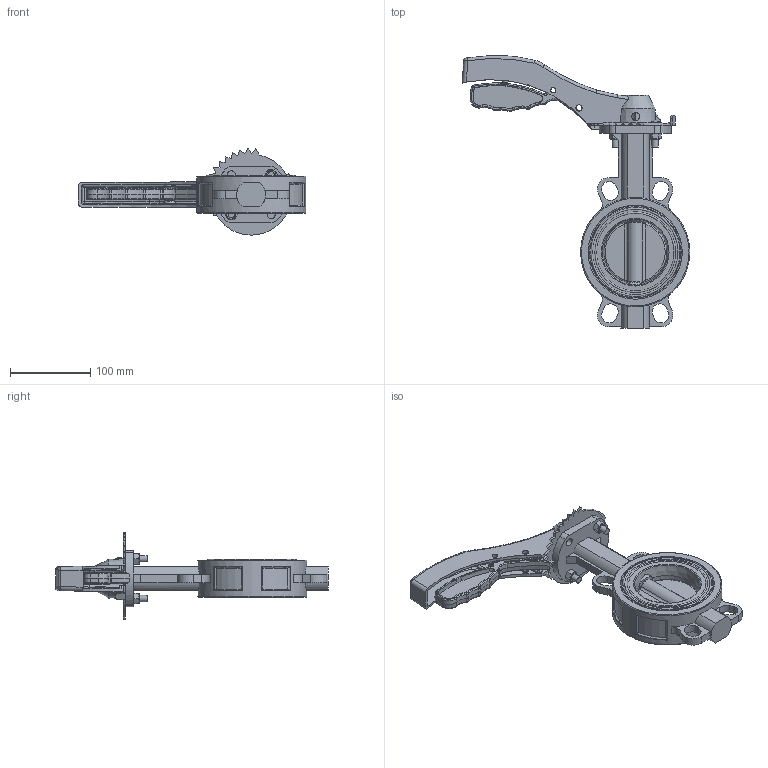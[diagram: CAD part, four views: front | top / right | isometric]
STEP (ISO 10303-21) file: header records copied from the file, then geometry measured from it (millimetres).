
FILE_DESCRIPTION (( 'STEP AP214' ), '1' );
FILE_NAME ('忒梟 勤標評概Fig.3230-16-80.STEP', '2026-03-23T03:42:20', ( '' ), ( '' ), 'SwSTEP 2.0', 'SolidWorks 2024', '' );
FILE_SCHEMA (( 'AUTOMOTIVE_DESIGN' ));
Length unit declared in the file: millimetre
Products named in the file (1): 手柄 对夹蝶阀Fig.3230-16-80
Bounding box: 283.46 x 339.89 x 107.39 mm (x, y, z)
Volume: 815504.2 mm3; surface area: 171255.7 mm2
Topology: 1 solids, 5 shells, 1173 faces, 3322 edges, 2196 vertices
Faces by surface type: plane 772, cylinder 175, bspline 124, cone 74, torus 28
Full cylindrical faces by diameter (mm): 6.303 x1, 6.618 x3, 7.816 x2, 8 x4, 10 x4, 10.085 x1, 11.856 x2, 12.75 x1, 15.4 x2, 24.708 x1, 28 x1, 136 x1
Entity records: 61586 total; most frequent: CARTESIAN_POINT 20443, ORIENTED_EDGE 6466, DIRECTION 4877, EDGE_CURVE 3233, VERTEX_POINT 2163, VECTOR 2085, LINE 2085, AXIS2_PLACEMENT_3D 1396
